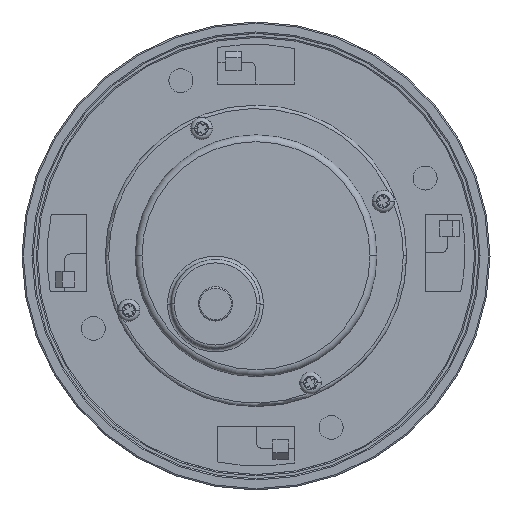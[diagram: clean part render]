
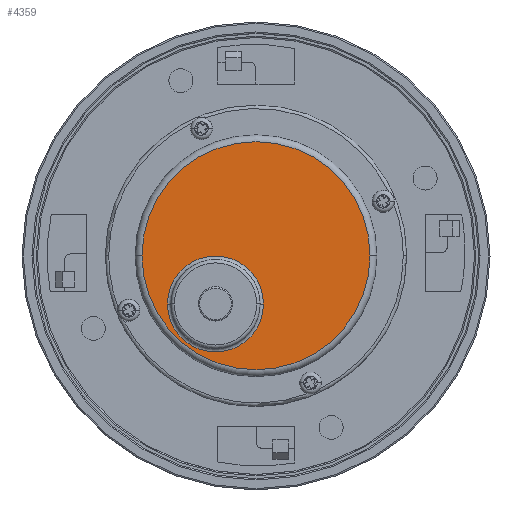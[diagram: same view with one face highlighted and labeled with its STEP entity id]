
A CAD part, top view. The second image highlights one B-rep face of the part: STEP entity #4359.
In plain terms, the highlighted planar face has unit normal (0, 0, 1).
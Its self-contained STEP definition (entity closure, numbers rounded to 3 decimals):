
#26 = CARTESIAN_POINT ( 'NONE',  ( 1.086, -7.048, 27.3 ) ) ;
#1350 = CARTESIAN_POINT ( 'NONE',  ( 0., 0., 27.3 ) ) ;
#1351 = PLANE ( 'NONE',  #6865 ) ;
#1353 = DIRECTION ( 'NONE',  ( 0., 0., 1. ) ) ;
#1354 = DIRECTION ( 'NONE',  ( 1., 0., 0. ) ) ;
#1538 = CARTESIAN_POINT ( 'NONE',  ( -16.65, 0., 27.3 ) ) ;
#1543 = CARTESIAN_POINT ( 'NONE',  ( -12.914, -7.048, 27.3 ) ) ;
#1553 = CARTESIAN_POINT ( 'NONE',  ( 16.65, 0., 27.3 ) ) ;
#3017 = FACE_BOUND ( 'NONE', #7797, .T. ) ;
#3027 = FACE_OUTER_BOUND ( 'NONE', #7799, .T. ) ;
#3133 = CIRCLE ( 'NONE', #6927, 7. ) ;
#4021 = EDGE_CURVE ( 'NONE', #4602, #4587, #10761, .T. ) ;
#4098 = EDGE_CURVE ( 'NONE', #4592, #4622, #10859, .T. ) ;
#4111 = EDGE_CURVE ( 'NONE', #4587, #4602, #10873, .T. ) ;
#4359 = ADVANCED_FACE ( 'NONE', ( #3017, #3027 ), #1351, .T. ) ;
#4587 = VERTEX_POINT ( 'NONE', #1538 ) ;
#4592 = VERTEX_POINT ( 'NONE', #1543 ) ;
#4602 = VERTEX_POINT ( 'NONE', #1553 ) ;
#4622 = VERTEX_POINT ( 'NONE', #26 ) ;
#4811 = CARTESIAN_POINT ( 'NONE',  ( -5.914, -7.048, 27.3 ) ) ;
#4812 = DIRECTION ( 'NONE',  ( 0., 0., -1. ) ) ;
#4813 = DIRECTION ( 'NONE',  ( 1., 0., 0. ) ) ;
#4841 = CARTESIAN_POINT ( 'NONE',  ( 0., 0., 27.3 ) ) ;
#4847 = DIRECTION ( 'NONE',  ( 0., 0., 1. ) ) ;
#4848 = DIRECTION ( 'NONE',  ( 1., 0., 0. ) ) ;
#6865 = AXIS2_PLACEMENT_3D ( 'NONE', #1350, #1353, #1354 ) ;
#6927 = AXIS2_PLACEMENT_3D ( 'NONE', #7137, #7150, #7151 ) ;
#7137 = CARTESIAN_POINT ( 'NONE',  ( -5.914, -7.048, 27.3 ) ) ;
#7150 = DIRECTION ( 'NONE',  ( 0., 0., -1. ) ) ;
#7151 = DIRECTION ( 'NONE',  ( 1., 0., 0. ) ) ;
#7797 = EDGE_LOOP ( 'NONE', ( #8020, #8019 ) ) ;
#7799 = EDGE_LOOP ( 'NONE', ( #8018, #8016 ) ) ;
#8016 = ORIENTED_EDGE ( 'NONE', *, *, #4111, .T. ) ;
#8018 = ORIENTED_EDGE ( 'NONE', *, *, #4021, .T. ) ;
#8019 = ORIENTED_EDGE ( 'NONE', *, *, #4098, .T. ) ;
#8020 = ORIENTED_EDGE ( 'NONE', *, *, #9895, .T. ) ;
#8389 = AXIS2_PLACEMENT_3D ( 'NONE', #11066, #11079, #11083 ) ;
#8447 = AXIS2_PLACEMENT_3D ( 'NONE', #4811, #4812, #4813 ) ;
#8449 = AXIS2_PLACEMENT_3D ( 'NONE', #4841, #4847, #4848 ) ;
#9895 = EDGE_CURVE ( 'NONE', #4622, #4592, #3133, .T. ) ;
#10761 = CIRCLE ( 'NONE', #8389, 16.65 ) ;
#10859 = CIRCLE ( 'NONE', #8447, 7. ) ;
#10873 = CIRCLE ( 'NONE', #8449, 16.65 ) ;
#11066 = CARTESIAN_POINT ( 'NONE',  ( 0., 0., 27.3 ) ) ;
#11079 = DIRECTION ( 'NONE',  ( 0., 0., 1. ) ) ;
#11083 = DIRECTION ( 'NONE',  ( 1., 0., 0. ) ) ;
